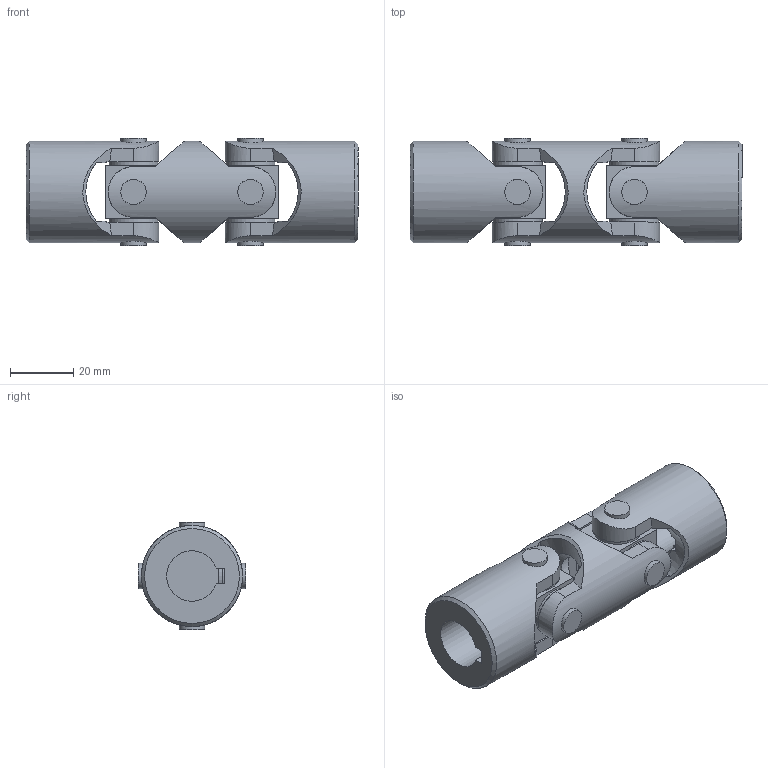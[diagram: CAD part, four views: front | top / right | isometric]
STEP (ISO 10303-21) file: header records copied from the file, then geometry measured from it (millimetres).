
FILE_DESCRIPTION(/* description */ (''),/* implementation_level */ '2;1');
FILE_NAME(/* name */ '\\SRV2016\societa\Stefano\Disegni 3D\0Catalogo 3D\14Doppi XD\Doppi XD file STEP\SX0D162C.stp',/* time_stamp */ '2023-05-24T08:42:47+02:00',/* author */ ('acquisti'),/* organization */ (''),/* preprocessor_version */ 'ST-DEVELOPER v15.6',/* originating_system */ 'Autodesk Inventor 2015',/* authorisation */ '');
FILE_SCHEMA (('AUTOMOTIVE_DESIGN { 1 0 10303 214 3 1 1 }'));
Length unit declared in the file: millimetre
Products named in the file (4): 1X MOD; 1X SFE; 1X MOC; Ø32_1XD_SX0D1600
Assembly tree (5 placements, depth 2):
  Ø32_1XD_SX0D1600
    1X MOD
    1X SFE  x2
    1X MOC  x2
Bounding box: 105 x 34.1 x 34.1 mm (x, y, z)
Volume: 56728.4 mm3; surface area: 21953.4 mm2
Topology: 5 solids, 5 shells, 127 faces, 329 edges, 224 vertices
Faces by surface type: plane 68, cylinder 33, cone 22, torus 4
Full cylindrical faces by diameter (mm): 8 x8, 15.5 x8, 18 x2, 32 x3
Entity records: 3104 total; most frequent: CARTESIAN_POINT 1142, ORIENTED_EDGE 392, DIRECTION 365, EDGE_CURVE 196, AXIS2_PLACEMENT_3D 154, VERTEX_POINT 144, EDGE_LOOP 116, FACE_OUTER_BOUND 85
